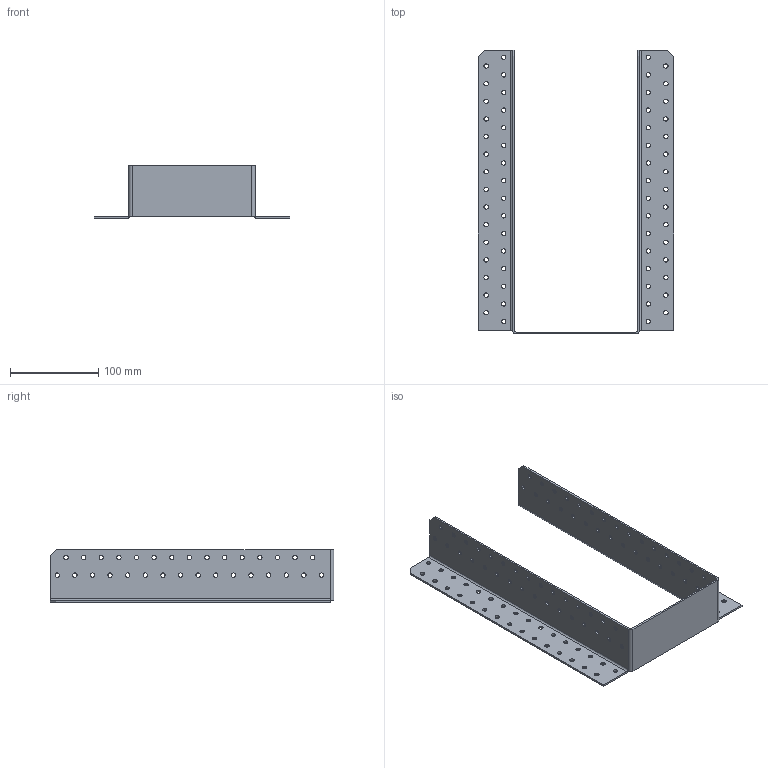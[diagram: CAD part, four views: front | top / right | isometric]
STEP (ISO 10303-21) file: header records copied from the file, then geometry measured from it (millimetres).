
FILE_DESCRIPTION (( 'STEP AP203' ), '1' );
FILE_NAME ('405122.STEP', '2021-04-17T17:04:00', ( '' ), ( '' ), 'SwSTEP 2.0', 'SolidWorks 2013', '' );
FILE_SCHEMA (( 'CONFIG_CONTROL_DESIGN' ));
Length unit declared in the file: millimetre
Products named in the file (1): 405122
Bounding box: 222 x 322 x 60 mm (x, y, z)
Volume: 136094 mm3; surface area: 143633.5 mm2
Topology: 1 solids, 1 shells, 292 faces, 840 edges, 550 vertices
Faces by surface type: cylinder 256, plane 36
Entity records: 10411 total; most frequent: DIRECTION 1940, CARTESIAN_POINT 1683, ORIENTED_EDGE 1680, EDGE_CURVE 840, AXIS2_PLACEMENT_3D 807, VERTEX_POINT 550, EDGE_LOOP 540, CIRCLE 514
